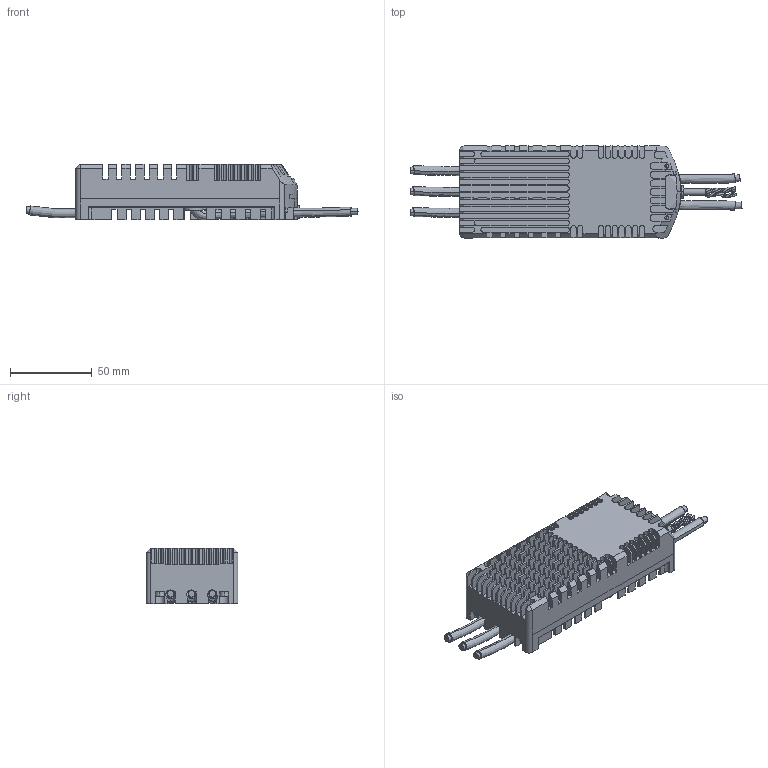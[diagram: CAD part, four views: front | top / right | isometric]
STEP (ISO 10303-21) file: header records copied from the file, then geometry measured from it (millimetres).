
FILE_DESCRIPTION (( 'STEP AP203' ), '1' );
FILE_NAME ('RD A series 150A.STEP', '2026-09-30T06:46:24', ( '' ), ( '' ), 'RDSTEP 2.0', 'RD ESC 150A Copyright', '' );
FILE_SCHEMA (( 'CONFIG_CONTROL_DESIGN' ));
Length unit declared in the file: millimetre
Products named in the file (1): RD A series 150A
Bounding box: 203.06 x 56.23 x 33.98 mm (x, y, z)
Volume: 148119.5 mm3; surface area: 78537.2 mm2
Topology: 1 solids, 24 shells, 1750 faces, 5063 edges, 3347 vertices
Faces by surface type: plane 1282, cylinder 380, bspline 58, cone 22, torus 8
Entity records: 68786 total; most frequent: CARTESIAN_POINT 22717, ORIENTED_EDGE 10110, DIRECTION 8950, EDGE_CURVE 5055, LINE 3846, VECTOR 3846, VERTEX_POINT 3347, AXIS2_PLACEMENT_3D 2552
